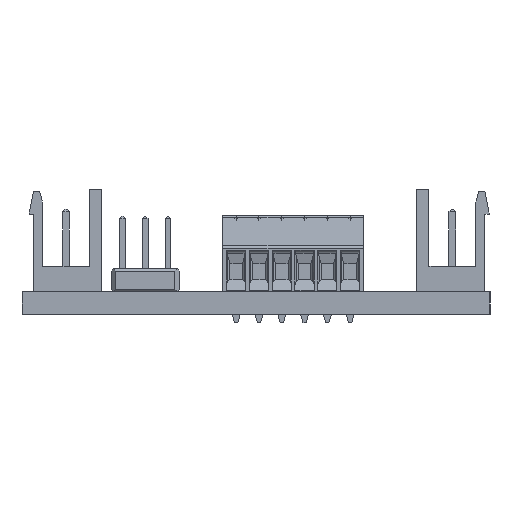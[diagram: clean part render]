
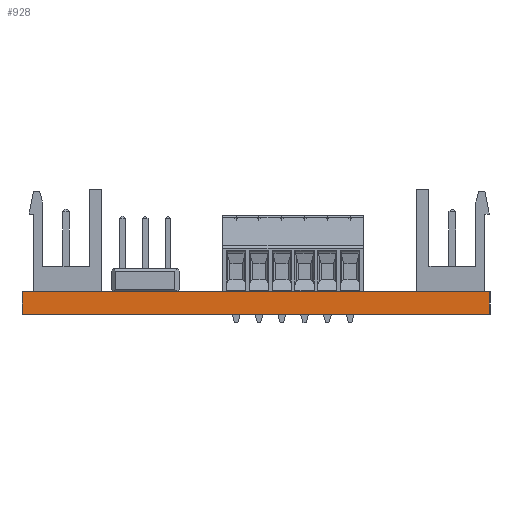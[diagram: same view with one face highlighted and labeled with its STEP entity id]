
A CAD part, left-side view. The second image highlights one B-rep face of the part: STEP entity #928.
In plain terms, the highlighted planar face has unit normal (-1, 0, 0).
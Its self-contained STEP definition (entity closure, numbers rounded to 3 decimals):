
#75 = PLANE('',#76);
#76 = AXIS2_PLACEMENT_3D('',#77,#78,#79);
#77 = CARTESIAN_POINT('',(-0.064,0.,0.));
#78 = DIRECTION('',(0.956,0.293,0.));
#79 = DIRECTION('',(0.293,-0.956,0.));
#103 = PLANE('',#104);
#104 = AXIS2_PLACEMENT_3D('',#105,#106,#107);
#105 = CARTESIAN_POINT('',(-0.049,-0.049,2.545));
#106 = DIRECTION('',(0.,0.,-1.));
#107 = DIRECTION('',(-1.,0.,0.));
#157 = PLANE('',#158);
#158 = AXIS2_PLACEMENT_3D('',#159,#160,#161);
#159 = CARTESIAN_POINT('',(-0.049,-0.049,0.));
#160 = DIRECTION('',(0.,0.,-1.));
#161 = DIRECTION('',(-1.,0.,0.));
#820 = PLANE('',#821);
#821 = AXIS2_PLACEMENT_3D('',#822,#823,#824);
#822 = CARTESIAN_POINT('',(-0.049,52.068,0.));
#823 = DIRECTION('',(0.924,-0.383,0.));
#824 = DIRECTION('',(-0.383,-0.924,0.));
#858 = VERTEX_POINT('',#859);
#859 = CARTESIAN_POINT('',(-0.069,52.019,2.545));
#880 = EDGE_CURVE('',#881,#858,#883,.T.);
#881 = VERTEX_POINT('',#882);
#882 = CARTESIAN_POINT('',(-0.069,52.019,0.));
#883 = SURFACE_CURVE('',#884,(#888,#895),.PCURVE_S1.);
#884 = LINE('',#885,#886);
#885 = CARTESIAN_POINT('',(-0.069,52.019,0.));
#886 = VECTOR('',#887,1.);
#887 = DIRECTION('',(0.,0.,1.));
#888 = PCURVE('',#820,#889);
#889 = DEFINITIONAL_REPRESENTATION('',(#890),#894);
#890 = LINE('',#891,#892);
#891 = CARTESIAN_POINT('',(0.053,0.));
#892 = VECTOR('',#893,1.);
#893 = DIRECTION('',(0.,-1.));
#894 = ( GEOMETRIC_REPRESENTATION_CONTEXT(2) 
PARAMETRIC_REPRESENTATION_CONTEXT() REPRESENTATION_CONTEXT('2D SPACE',''
  ) );
#895 = PCURVE('',#896,#901);
#896 = PLANE('',#897);
#897 = AXIS2_PLACEMENT_3D('',#898,#899,#900);
#898 = CARTESIAN_POINT('',(-0.069,52.019,0.));
#899 = DIRECTION('',(1.,0.,0.));
#900 = DIRECTION('',(0.,-1.,0.));
#901 = DEFINITIONAL_REPRESENTATION('',(#902),#906);
#902 = LINE('',#903,#904);
#903 = CARTESIAN_POINT('',(0.,0.));
#904 = VECTOR('',#905,1.);
#905 = DIRECTION('',(0.,-1.));
#906 = ( GEOMETRIC_REPRESENTATION_CONTEXT(2) 
PARAMETRIC_REPRESENTATION_CONTEXT() REPRESENTATION_CONTEXT('2D SPACE',''
  ) );
#928 = ADVANCED_FACE('',(#929),#896,.F.);
#929 = FACE_BOUND('',#930,.F.);
#930 = EDGE_LOOP('',(#931,#932,#955,#978));
#931 = ORIENTED_EDGE('',*,*,#880,.T.);
#932 = ORIENTED_EDGE('',*,*,#933,.T.);
#933 = EDGE_CURVE('',#858,#934,#936,.T.);
#934 = VERTEX_POINT('',#935);
#935 = CARTESIAN_POINT('',(-0.064,0.,2.545));
#936 = SURFACE_CURVE('',#937,(#941,#948),.PCURVE_S1.);
#937 = LINE('',#938,#939);
#938 = CARTESIAN_POINT('',(-0.069,52.019,2.545));
#939 = VECTOR('',#940,1.);
#940 = DIRECTION('',(0.,-1.,0.));
#941 = PCURVE('',#896,#942);
#942 = DEFINITIONAL_REPRESENTATION('',(#943),#947);
#943 = LINE('',#944,#945);
#944 = CARTESIAN_POINT('',(0.,-2.545));
#945 = VECTOR('',#946,1.);
#946 = DIRECTION('',(1.,0.));
#947 = ( GEOMETRIC_REPRESENTATION_CONTEXT(2) 
PARAMETRIC_REPRESENTATION_CONTEXT() REPRESENTATION_CONTEXT('2D SPACE',''
  ) );
#948 = PCURVE('',#103,#949);
#949 = DEFINITIONAL_REPRESENTATION('',(#950),#954);
#950 = LINE('',#951,#952);
#951 = CARTESIAN_POINT('',(0.02,52.068));
#952 = VECTOR('',#953,1.);
#953 = DIRECTION('',(0.,-1.));
#954 = ( GEOMETRIC_REPRESENTATION_CONTEXT(2) 
PARAMETRIC_REPRESENTATION_CONTEXT() REPRESENTATION_CONTEXT('2D SPACE',''
  ) );
#955 = ORIENTED_EDGE('',*,*,#956,.F.);
#956 = EDGE_CURVE('',#957,#934,#959,.T.);
#957 = VERTEX_POINT('',#958);
#958 = CARTESIAN_POINT('',(-0.064,0.,0.));
#959 = SURFACE_CURVE('',#960,(#964,#971),.PCURVE_S1.);
#960 = LINE('',#961,#962);
#961 = CARTESIAN_POINT('',(-0.064,0.,0.));
#962 = VECTOR('',#963,1.);
#963 = DIRECTION('',(0.,0.,1.));
#964 = PCURVE('',#896,#965);
#965 = DEFINITIONAL_REPRESENTATION('',(#966),#970);
#966 = LINE('',#967,#968);
#967 = CARTESIAN_POINT('',(52.019,0.));
#968 = VECTOR('',#969,1.);
#969 = DIRECTION('',(0.,-1.));
#970 = ( GEOMETRIC_REPRESENTATION_CONTEXT(2) 
PARAMETRIC_REPRESENTATION_CONTEXT() REPRESENTATION_CONTEXT('2D SPACE',''
  ) );
#971 = PCURVE('',#75,#972);
#972 = DEFINITIONAL_REPRESENTATION('',(#973),#977);
#973 = LINE('',#974,#975);
#974 = CARTESIAN_POINT('',(0.,0.));
#975 = VECTOR('',#976,1.);
#976 = DIRECTION('',(0.,-1.));
#977 = ( GEOMETRIC_REPRESENTATION_CONTEXT(2) 
PARAMETRIC_REPRESENTATION_CONTEXT() REPRESENTATION_CONTEXT('2D SPACE',''
  ) );
#978 = ORIENTED_EDGE('',*,*,#979,.F.);
#979 = EDGE_CURVE('',#881,#957,#980,.T.);
#980 = SURFACE_CURVE('',#981,(#985,#992),.PCURVE_S1.);
#981 = LINE('',#982,#983);
#982 = CARTESIAN_POINT('',(-0.069,52.019,0.));
#983 = VECTOR('',#984,1.);
#984 = DIRECTION('',(0.,-1.,0.));
#985 = PCURVE('',#896,#986);
#986 = DEFINITIONAL_REPRESENTATION('',(#987),#991);
#987 = LINE('',#988,#989);
#988 = CARTESIAN_POINT('',(0.,0.));
#989 = VECTOR('',#990,1.);
#990 = DIRECTION('',(1.,0.));
#991 = ( GEOMETRIC_REPRESENTATION_CONTEXT(2) 
PARAMETRIC_REPRESENTATION_CONTEXT() REPRESENTATION_CONTEXT('2D SPACE',''
  ) );
#992 = PCURVE('',#157,#993);
#993 = DEFINITIONAL_REPRESENTATION('',(#994),#998);
#994 = LINE('',#995,#996);
#995 = CARTESIAN_POINT('',(0.02,52.068));
#996 = VECTOR('',#997,1.);
#997 = DIRECTION('',(0.,-1.));
#998 = ( GEOMETRIC_REPRESENTATION_CONTEXT(2) 
PARAMETRIC_REPRESENTATION_CONTEXT() REPRESENTATION_CONTEXT('2D SPACE',''
  ) );
